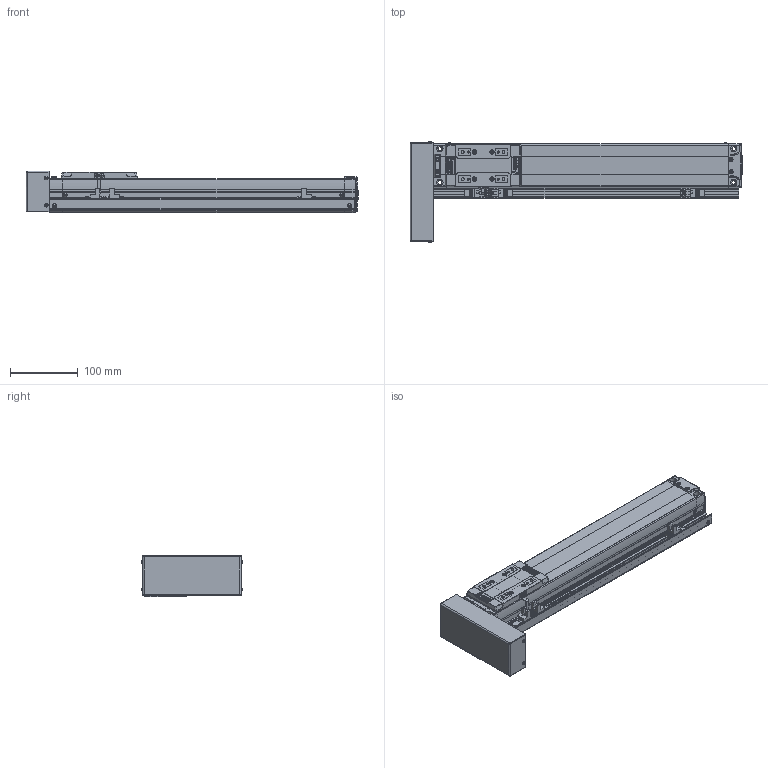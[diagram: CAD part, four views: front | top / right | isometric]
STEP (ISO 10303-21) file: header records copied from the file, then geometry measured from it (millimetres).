
FILE_DESCRIPTION(('STEP AP214'),'1');
FILE_NAME('Z:/Web/3D/SAN65/STP/SAN65ㅁㅁ-300PR+3SR.stp','2012-06-14T05:15:58',(' '),(' '),'Spatial InterOp 3D',' ',' ');
FILE_SCHEMA(('automotive_design'));
Length unit declared in the file: metre
Products named in the file (57): SAN65__-300; BODY-SAN65; REAR-SAN65; RRCV-SAN65; 스크루 : Round - M3.0 x 6.0; FRONT-SAN65; SHAFT-SAN65; RN8 x 0.75; SSFX-SAN65; SLIDE-SAN65; SLCV-SAN65; 스크루 : Countersunk - M3.0 x 6.0; ____207; PR; BTCV-SAN65; BHCS M3 X 6L; 3SR; SRL-16x17-450L; - OT; EE-SX674; SBK-SX674-352; HOME; + OT; DOG; SDG-SAN65; 스크루 : Round - M3.0 x 5.0
Assembly tree (56 placements, depth 4):
  ____207
    SAN65__-300
      BODY-SAN65
      REAR-SAN65
        REAR-SAN65
        RRCV-SAN65
        스크루 : Round - M3.0 x 6.0
        스크루 : Round - M3.0 x 6.0
        스크루 : Round - M3.0 x 6.0
        스크루 : Round - M3.0 x 6.0
        스크루 : Round - M3.0 x 6.0
        스크루 : Round - M3.0 x 6.0
      FRONT-SAN65
        FRONT-SAN65
        SHAFT-SAN65
        RN8 x 0.75
        SSFX-SAN65
        스크루 : Round - M3.0 x 6.0
        스크루 : Round - M3.0 x 6.0
        스크루 : Round - M3.0 x 6.0
        스크루 : Round - M3.0 x 6.0
      SLIDE-SAN65
        SLIDE-SAN65
        SLCV-SAN65
        스크루 : Countersunk - M3.0 x 6.0
        스크루 : Countersunk - M3.0 x 6.0
        스크루 : Countersunk - M3.0 x 6.0
        스크루 : Countersunk - M3.0 x 6.0
    PR
      BTCV-SAN65
      BHCS M3 X 6L
      BHCS M3 X 6L
      BHCS M3 X 6L
      BHCS M3 X 6L
    3SR
      SRL-16x17-450L
      스크루 : Round - M3.0 x 6.0
      스크루 : Round - M3.0 x 6.0
      - OT
        EE-SX674
        SBK-SX674-352
        스크루 : Round - M3.0 x 6.0
        스크루 : Round - M3.0 x 6.0
      HOME
        EE-SX674
        SBK-SX674-352
        스크루 : Round - M3.0 x 6.0
        스크루 : Round - M3.0 x 6.0
      + OT
        EE-SX674
        SBK-SX674-352
        스크루 : Round - M3.0 x 6.0
        스크루 : Round - M3.0 x 6.0
      DOG
        SDG-SAN65
        스크루 : Round - M3.0 x 5.0
        스크루 : Round - M3.0 x 5.0
Bounding box: 490.15 x 149.13 x 61 mm (x, y, z)
Volume: 1799536.4 mm3; surface area: 278335.1 mm2
Topology: 46 solids, 46 shells, 1949 faces, 4971 edges, 3240 vertices
Faces by surface type: plane 1293, cylinder 481, cone 91, sphere 36, bspline 30, torus 15, extrusion 3
Full cylindrical faces by diameter (mm): 0.571 x2, 0.706 x1, 1.727 x2, 2.132 x1, 2.2 x4, 2.5 x15, 2.528 x4, 3 x6, 3.121 x2, 3.3 x4, 3.4 x8, 3.5 x14, 4.2 x26, 4.849 x4, 5 x2, 5.5 x4, 5.987 x2, 6 x6, 6.35 x1, 6.5 x2, 7 x1, 8 x4, 9.5 x4, 13 x1, 15 x1, 19 x1, 26 x1, 38.1 x1
Entity records: 78585 total; most frequent: CARTESIAN_POINT 14945, DIRECTION 9769, ORIENTED_EDGE 9288, EDGE_CURVE 4644, VECTOR 3281, LINE 3278, AXIS2_PLACEMENT_3D 3244, VERTEX_POINT 3180
